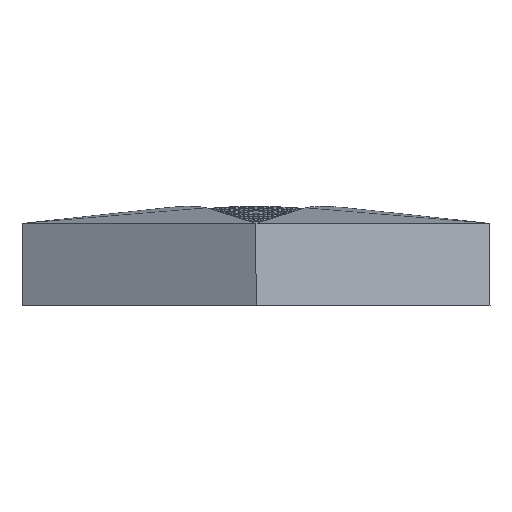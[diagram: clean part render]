
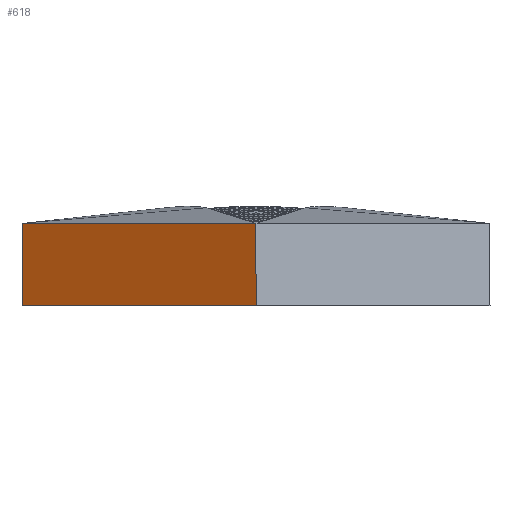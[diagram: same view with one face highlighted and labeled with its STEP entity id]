
A CAD part, left-side view. The second image highlights one B-rep face of the part: STEP entity #618.
In plain terms, the highlighted planar face has unit normal (-0.866, 0.5, 0).
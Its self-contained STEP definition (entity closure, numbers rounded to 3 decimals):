
#618=ADVANCED_FACE('',(#643),#3894,.T.);
#643=FACE_OUTER_BOUND('',#668,.T.);
#668=EDGE_LOOP('',(#1307,#1308,#1309,#1310));
#1307=ORIENTED_EDGE('',*,*,#1975,.T.);
#1308=ORIENTED_EDGE('',*,*,#1987,.T.);
#1309=ORIENTED_EDGE('',*,*,#1986,.F.);
#1310=ORIENTED_EDGE('',*,*,#1985,.F.);
#1975=EDGE_CURVE('',#3266,#3265,#2623,.T.);
#1985=EDGE_CURVE('',#3266,#3272,#2633,.T.);
#1986=EDGE_CURVE('',#3272,#3273,#2634,.T.);
#1987=EDGE_CURVE('',#3265,#3273,#2635,.T.);
#2623=B_SPLINE_CURVE_WITH_KNOTS('',1,(#4721,#4722),.UNSPECIFIED.,.F.,.F.,
(2,2),(-1500.,-1250.),.UNSPECIFIED.);
#2633=B_SPLINE_CURVE_WITH_KNOTS('',1,(#4744,#4745,#4746),.UNSPECIFIED.,
 .F.,.F.,(2,1,2),(0.,74.,76.),.UNSPECIFIED.);
#2634=B_SPLINE_CURVE_WITH_KNOTS('',1,(#4747,#4748),.UNSPECIFIED.,.F.,.F.,
(2,2),(-250.,0.),.UNSPECIFIED.);
#2635=B_SPLINE_CURVE_WITH_KNOTS('',1,(#4749,#4750,#4751),.UNSPECIFIED.,
 .F.,.F.,(2,1,2),(0.,74.,76.),.UNSPECIFIED.);
#3265=VERTEX_POINT('',#4098);
#3266=VERTEX_POINT('',#4099);
#3272=VERTEX_POINT('',#4105);
#3273=VERTEX_POINT('',#4106);
#3894=PLANE('',#4001);
#4001=AXIS2_PLACEMENT_3D('',#4045,#4023,$);
#4023=DIRECTION('',(-0.866,0.5,0.));
#4045=CARTESIAN_POINT('',(-137.5,194.856,76.2));
#4098=CARTESIAN_POINT('',(-125.,216.506,0.));
#4099=CARTESIAN_POINT('',(0.,433.013,0.));
#4105=CARTESIAN_POINT('',(0.,433.013,76.));
#4106=CARTESIAN_POINT('',(-125.,216.506,76.));
#4721=CARTESIAN_POINT('',(0.,433.013,0.));
#4722=CARTESIAN_POINT('',(-125.,216.506,0.));
#4744=CARTESIAN_POINT('',(0.,433.013,0.));
#4745=CARTESIAN_POINT('',(0.,433.013,74.));
#4746=CARTESIAN_POINT('',(0.,433.013,76.));
#4747=CARTESIAN_POINT('',(0.,433.013,76.));
#4748=CARTESIAN_POINT('',(-125.,216.506,76.));
#4749=CARTESIAN_POINT('',(-125.,216.506,0.));
#4750=CARTESIAN_POINT('',(-125.,216.506,74.));
#4751=CARTESIAN_POINT('',(-125.,216.506,76.));
